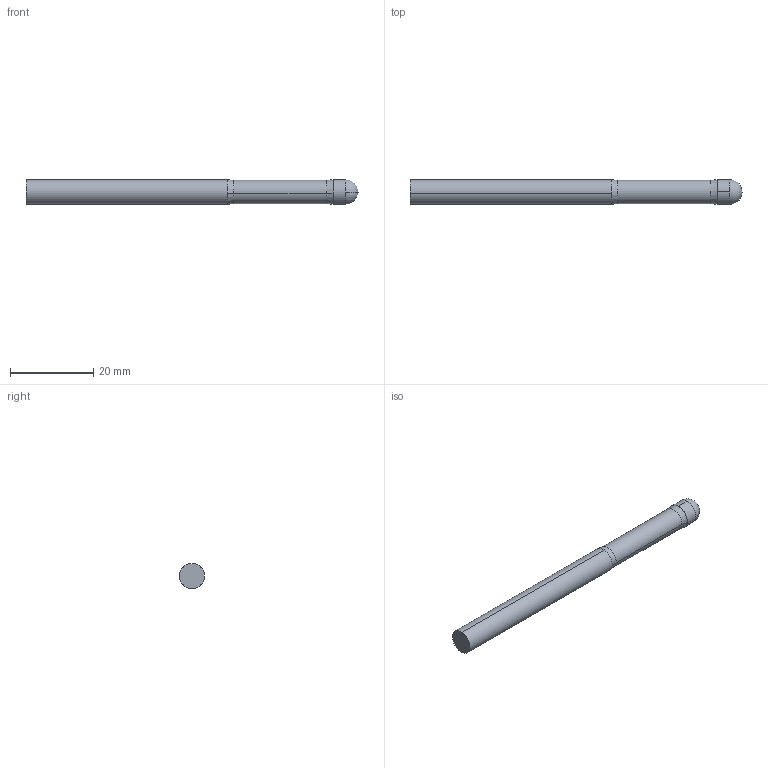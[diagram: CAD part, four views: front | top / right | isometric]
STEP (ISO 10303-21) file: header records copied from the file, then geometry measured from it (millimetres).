
FILE_DESCRIPTION (( 'STEP AP214' ), '1' );
FILE_NAME ('HM70xBNX3006.STEP', '2025-05-20T15:10:04', ( '' ), ( '' ), 'SwSTEP 2.0', 'SolidWorks 2023', '' );
FILE_SCHEMA (( 'AUTOMOTIVE_DESIGN' ));
Length unit declared in the file: millimetre
Products named in the file (3): HM70xBN OD ONLY_HM70xBNX3006; HM70xBN SHANK ONLY_HM70xBNX3006; HM70xBNX3006
Assembly tree (2 placements, depth 2):
  HM70xBNX3006
    HM70xBN OD ONLY_HM70xBNX3006
    HM70xBN SHANK ONLY_HM70xBNX3006
Bounding box: 80 x 6 x 6 mm (x, y, z)
Volume: 2146.3 mm3; surface area: 1563.2 mm2
Topology: 2 solids, 2 shells, 15 faces, 32 edges, 19 vertices
Faces by surface type: cylinder 6, cone 4, plane 3, sphere 2
Entity records: 488 total; most frequent: DIRECTION 90, CARTESIAN_POINT 69, ORIENTED_EDGE 60, AXIS2_PLACEMENT_3D 40, EDGE_CURVE 30, CIRCLE 20, VERTEX_POINT 19, EDGE_LOOP 15
